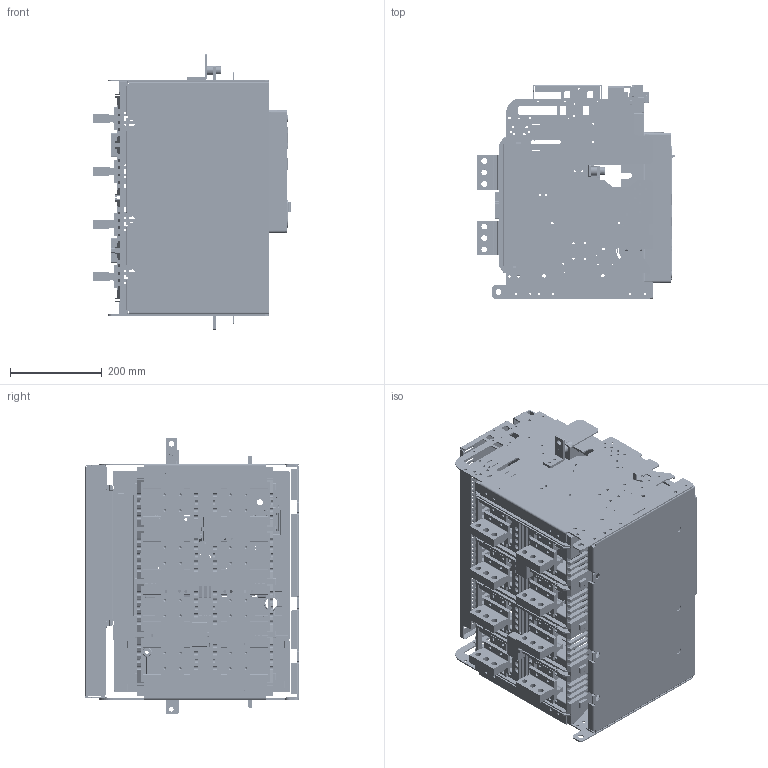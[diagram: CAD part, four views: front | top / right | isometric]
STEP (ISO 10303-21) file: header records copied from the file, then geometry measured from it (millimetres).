
FILE_DESCRIPTION((''),'2;1');
FILE_NAME('HG_10_B_254V_ASM_ASM','2019-03-27T',('HHI'),(''),'PRO/ENGINEER BY PARAMETRIC TECHNOLOGY CORPORATION, 2012453','PRO/ENGINEER BY PARAMETRIC TECHNOLOGY CORPORATION, 2012453','');
FILE_SCHEMA(('CONFIG_CONTROL_DESIGN'));
Products named in the file (41): PRT0001; PRT0002; ASM0001_ASM; PRT0003; PRT0004; PRT0005; ASM0002_ASM; PRT0006; PRT0007; PRT0008; PRT0009; ISOLATING_CONDUCTOR_20_25HV_L75; TERMINAL_B20_B25_9; PRT0010; PRT0011; PRT0012; PRT0013; PRT0014; ASM0004_ASM; PRT0015; PRT0016; PRT0017; ASM0005_ASM; PRT0018; COVER403_ASSY_ASM_18_ASM; PRT0027; ASM0003_ASM; PRT0028; PRT0029; PRT0030; PRT0031; PRT0032; ASM0006_ASM; PRT0033; PRT0034; ASM0008_ASM; B204_254V_ASM_11_ASM; HG_FRONT_COVER_40; 4AT-06477S03; 4AT-06477S04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
Assembly tree (54 placements, depth 6):
  HG_10_B_254V_ASM_ASM
    B204_254V_ASM_11_ASM
      ASM0001_ASM
        PRT0001
        PRT0002
      PRT0003
      ASM0002_ASM
        PRT0004
        PRT0005
      PRT0006
      PRT0007
      PRT0008
      PRT0009
      ISOLATING_CONDUCTOR_20_25HV_L75  x8
      TERMINAL_B20_B25_9  x8
      ASM0003_ASM
        COVER403_ASSY_ASM_18_ASM
          PRT0010
          ASM0004_ASM
            PRT0011
            PRT0012
            PRT0013
            PRT0014
          ASM0005_ASM
            PRT0015
            PRT0016
            PRT0017
          PRT0018
        PRT0027
      PRT0028
      ASM0006_ASM
        PRT0029
        PRT0030
        PRT0031
        PRT0032
      ASM0008_ASM
        PRT0033
        PRT0034
    HG_FRONT_COVER_40
    4AT-06477S03
    4AT-06477S04
Bounding box: 430.03 x 466.35 x 600.7 mm (x, y, z)
Volume: 6906465 mm3; surface area: 3966799.3 mm2
Topology: 45 solids, 45 shells, 15505 faces, 45572 edges, 29700 vertices
Faces by surface type: plane 11297, cylinder 3447, torus 249, sphere 164, extrusion 141, cone 126, bspline 81
Entity records: 493782 total; most frequent: CARTESIAN_POINT 94011, ORIENTED_EDGE 86474, DIRECTION 78426, EDGE_CURVE 43237, VECTOR 36094, LINE 35953, VERTEX_POINT 28188, AXIS2_PLACEMENT_3D 21166
